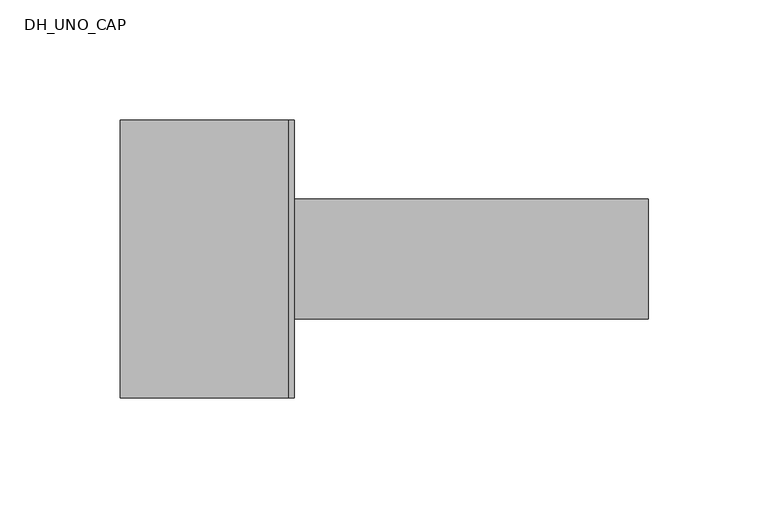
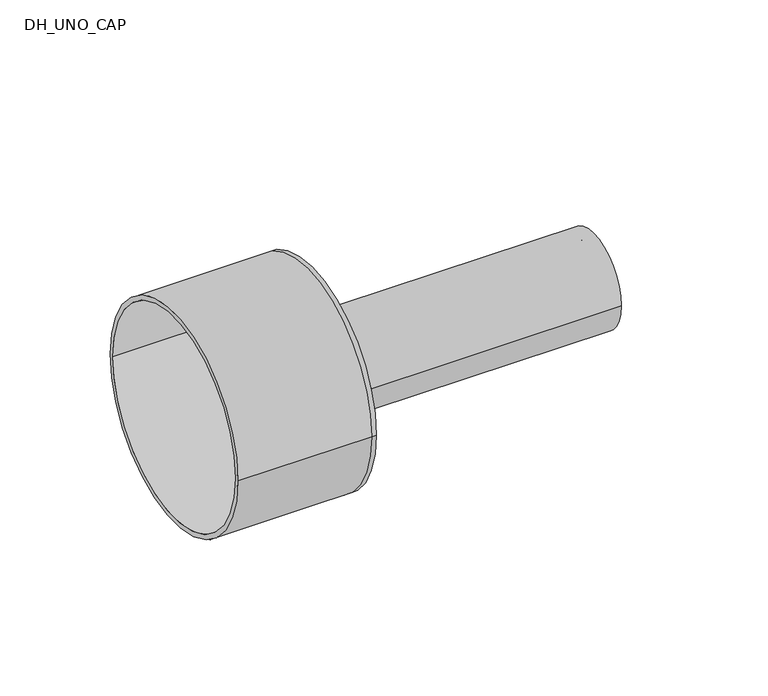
"""IFC4 building model written with IfcOpenShell, lengths in millimetres: pipe fitting geometry, DH_UNO_CAP : RAUTHERMEX UNO 7.4 DW - Solid Cap."""

from ifc_helpers import new_model, si_unit, point, frame, origin, origin_2d, place, context, project, spatial, polyline, circle_curve, trimmed, segment, composite_curve, outline, extrude, source, transform, mapped, element, save
from ifc_brep_helpers import plane_surface, cylinder_surface, revolved_surface, advanced_brep


def dh_uno_cap_c8f08ed2(model_context):
    return source(origin(), model_context, "Body", "SolidModel", [
        extrude(outline(composite_curve([segment(trimmed(circle_curve(origin_2d(), 25.0), [point((-25.0, 0.0))], [point((25.0, 0.0))], False, "CARTESIAN"), True, "CONTINUOUS"), segment(trimmed(circle_curve(origin_2d(), 25.0), [point((25.0, 0.0))], [point((-25.0, 0.0))], False, "CARTESIAN"), True, "CONTINUOUS")], self_intersect=False), holes=[composite_curve([segment(trimmed(circle_curve(origin_2d(), 18.1), [point((-18.1, 0.0))], [point((18.1, 0.0))], True, "CARTESIAN"), True, "CONTINUOUS"), segment(trimmed(circle_curve(origin_2d(), 18.1), [point((18.1, 0.0))], [point((-18.1, 0.0))], True, "CARTESIAN"), True, "CONTINUOUS")], self_intersect=False)]), frame((0.0, 0.0, 0.0), z_axis=(1.0, 0.0, 0.0), x_axis=(0.0, 1.0, 0.0)), (0.0, 0.0, 1.0), 150.0),
        advanced_brep(
        [(-70.0, -58.0, 0.0), (-70.0, 58.0, 0.0), (-70.0, -55.5, 0.0), (-70.0, 55.5, 0.0), (0.0, -55.5, 0.0), (0.0, 55.5, 0.0), (0.0, -58.0, 0.0), (0.0, 58.0, 0.0), (0.0, 25.0, 0.0), (0.0, -25.0, 0.0), (2.5, -58.0, 0.0), (2.5, 58.0, 0.0), (2.5, -25.0, 0.0), (2.5, 25.0, 0.0)],
        [
            (0, 1, circle_curve(frame((-70.0, 0.0, 0.0), z_axis=(-1.0, 0.0, 0.0), x_axis=(0.0, 1.0, 0.0)), 58.0)),
            (1, 0, circle_curve(frame((-70.0, 0.0, 0.0), z_axis=(-1.0, 0.0, 0.0), x_axis=(0.0, 1.0, 0.0)), 58.0)),
            (2, 3, circle_curve(frame((-70.0, 0.0, 0.0), z_axis=(1.0, 0.0, 0.0), x_axis=(0.0, 1.0, 0.0)), 55.5)),
            (3, 2, circle_curve(frame((-70.0, 0.0, 0.0), z_axis=(1.0, 0.0, 0.0), x_axis=(0.0, 1.0, 0.0)), 55.5)),
            (2, 4),
            (4, 5, circle_curve(frame((0.0, 0.0, 0.0), z_axis=(1.0, 0.0, 0.0), x_axis=(0.0, 1.0, 0.0)), 55.5)),
            (5, 3),
            (5, 4, circle_curve(frame((0.0, 0.0, 0.0), z_axis=(1.0, 0.0, 0.0), x_axis=(0.0, 1.0, 0.0)), 55.5)),
            (0, 6),
            (6, 7, circle_curve(frame((0.0, 0.0, 0.0), z_axis=(-1.0, 0.0, 0.0), x_axis=(0.0, 1.0, 0.0)), 58.0)),
            (7, 1),
            (7, 6, circle_curve(frame((0.0, 0.0, 0.0), z_axis=(-1.0, 0.0, 0.0), x_axis=(0.0, 1.0, 0.0)), 58.0)),
            (8, 9, circle_curve(frame((0.0, 0.0, 0.0), z_axis=(1.0, 0.0, 0.0), x_axis=(0.0, 1.0, 0.0)), 25.0)),
            (9, 8, circle_curve(frame((0.0, 0.0, 0.0), z_axis=(1.0, 0.0, 0.0), x_axis=(0.0, 1.0, 0.0)), 25.0)),
            (10, 11, circle_curve(frame((2.5, 0.0, 0.0), z_axis=(1.0, 0.0, 0.0), x_axis=(0.0, 1.0, 0.0)), 58.0)),
            (11, 10, circle_curve(frame((2.5, 0.0, 0.0), z_axis=(1.0, 0.0, 0.0), x_axis=(0.0, 1.0, 0.0)), 58.0)),
            (12, 13, circle_curve(frame((2.5, 0.0, 0.0), z_axis=(-1.0, 0.0, 0.0), x_axis=(0.0, 1.0, 0.0)), 25.0)),
            (13, 12, circle_curve(frame((2.5, 0.0, 0.0), z_axis=(-1.0, 0.0, 0.0), x_axis=(0.0, 1.0, 0.0)), 25.0)),
            (11, 7),
            (6, 10),
            (8, 13),
            (12, 9),
        ],
        [
            plane_surface(frame((-70.0, 0.0, 0.0), z_axis=(-1.0, 0.0, 0.0), x_axis=(0.0, 0.0, 1.0))),
            revolved_surface(polyline([(0.0, 55.5, 0.0), (-70.0, 55.5, 0.0)]), (-70.0, 0.0, 0.0), (1.0, 0.0, 0.0)),
            cylinder_surface(frame((-70.0, 0.0, 0.0), z_axis=(-1.0, 0.0, 0.0), x_axis=(0.0, 1.0, 0.0)), 58.0),
            plane_surface(frame((0.0, 0.0, 0.0), z_axis=(-1.0, 0.0, 0.0), x_axis=(0.0, 0.0, 1.0))),
            plane_surface(frame((2.5, 0.0, 0.0), z_axis=(1.0, 0.0, 0.0), x_axis=(0.0, 0.0, 1.0))),
            cylinder_surface(frame((0.0, 0.0, 0.0), z_axis=(-1.0, 0.0, 0.0), x_axis=(0.0, 1.0, 0.0)), 58.0),
            revolved_surface(polyline([(0.0, 25.0, 0.0), (2.5, 25.0, 0.0)]), (0.0, 0.0, 0.0), (-1.0, 0.0, 0.0)),
        ],
        [
            (0, [[1, 2], [3, 4]]),
            (1, [[-3, 5, 6, 7]]),
            (1, [[-4, -7, 8, -5]]),
            (2, [[-1, 9, 10, 11]]),
            (2, [[-2, -11, 12, -9]]),
            (3, [[-6, -8], [13, 14]]),
            (4, [[15, 16], [17, 18]]),
            (5, [[-16, 19, -10, 20]]),
            (5, [[-15, -20, -12, -19]]),
            (6, [[21, -17, 22, -13]]),
            (6, [[-21, -14, -22, -18]]),
        ],
    ),
    ])


if __name__ == "__main__":
    model = new_model("IFC4")
    model_context = context("Model", 3, world=origin())
    ifc_project = project(units=[si_unit("LENGTHUNIT", "METRE", prefix="MILLI")], contexts=[model_context])
    site = spatial("IfcSite", under=ifc_project)
    building = spatial("IfcBuilding", under=site)
    placement = place(None, origin())
    dh_uno_cap_shape = dh_uno_cap_c8f08ed2(model_context)
    element("IfcPipeFitting", 1, ObjectType="DH_UNO_CAP : RAUTHERMEX UNO 7.4 DW - Solid Cap", at=placement, inside=building, context=model_context, shape_type="MappedRepresentation", body=[
        mapped(dh_uno_cap_shape, transform((0.0, 0.0, 0.0), x_axis=(1.0, 0.0, 0.0), y_axis=(0.0, 1.0, 0.0), z_axis=(0.0, 0.0, 1.0))),
    ])
    save(model, "model.ifc")
